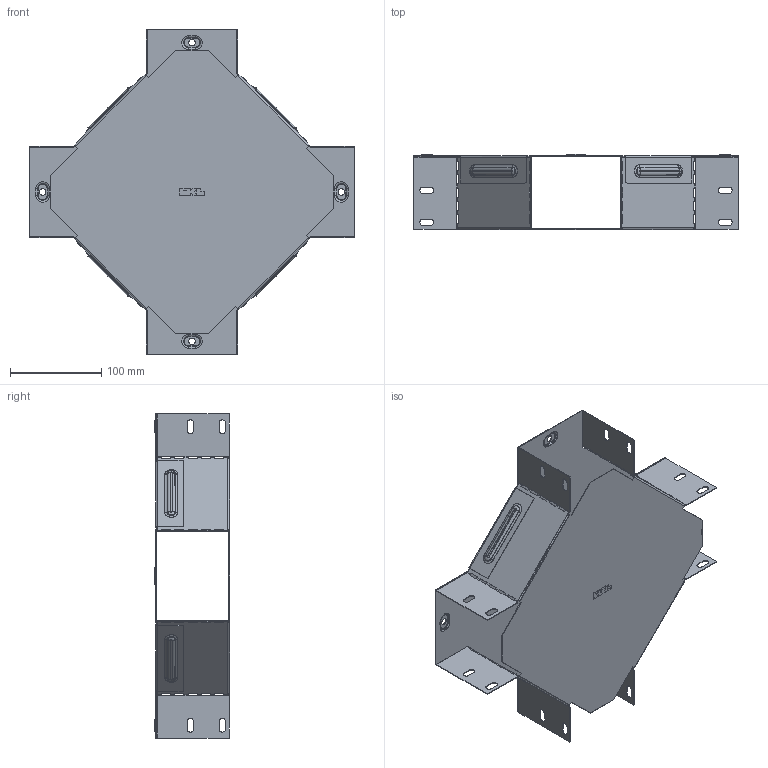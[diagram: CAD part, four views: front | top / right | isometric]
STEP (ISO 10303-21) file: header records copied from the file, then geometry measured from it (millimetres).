
FILE_DESCRIPTION (( 'STEP AP214' ), '1' );
FILE_NAME ('x8010008_捘.STEP', '2019-06-10T07:32:31', ( '砐錪賧瘔蠈錪 Windows' ), ( '' ), 'SwSTEP 2.0', 'SolidWorks 2018', '' );
FILE_SCHEMA (( 'AUTOMOTIVE_DESIGN' ));
Length unit declared in the file: millimetre
Products named in the file (1): x8010008_捘
Bounding box: 355.01 x 82.4 x 355.01 mm (x, y, z)
Volume: 167402.5 mm3; surface area: 423000.6 mm2
Topology: 2 solids, 2 shells, 868 faces, 2612 edges, 1704 vertices
Faces by surface type: plane 478, cylinder 276, torus 96, bspline 18
Entity records: 30371 total; most frequent: CARTESIAN_POINT 6143, ORIENTED_EDGE 5224, DIRECTION 4974, EDGE_CURVE 2612, VECTOR 1880, LINE 1880, VERTEX_POINT 1704, AXIS2_PLACEMENT_3D 1547
